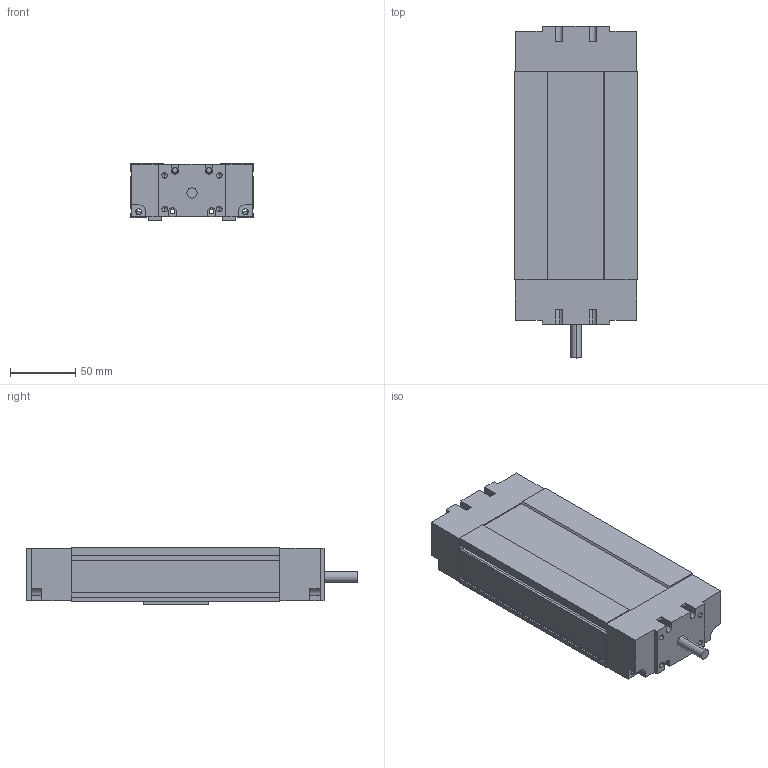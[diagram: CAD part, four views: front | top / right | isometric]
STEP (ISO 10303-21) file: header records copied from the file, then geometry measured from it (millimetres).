
FILE_DESCRIPTION (( 'STEP AP203' ), '1' );
FILE_NAME ('MSY94B-60-LL1210-P7.STEP', '2013-11-02T03:25:53', ( '微软用户' ), ( '微软中国' ), 'SwSTEP 2.0', 'SolidWorks 2010', '' );
FILE_SCHEMA (( 'CONFIG_CONTROL_DESIGN' ));
Length unit declared in the file: millimetre
Products named in the file (1): MSY94B-60-LL1210-P7
Bounding box: 94 x 255 x 44.5 mm (x, y, z)
Volume: 753103.4 mm3; surface area: 131109.5 mm2
Topology: 1 solids, 1 shells, 312 faces, 856 edges, 544 vertices
Faces by surface type: plane 222, cylinder 74, cone 16
Entity records: 9777 total; most frequent: CARTESIAN_POINT 1697, ORIENTED_EDGE 1680, DIRECTION 1622, EDGE_CURVE 840, VECTOR 684, LINE 684, VERTEX_POINT 544, AXIS2_PLACEMENT_3D 469
